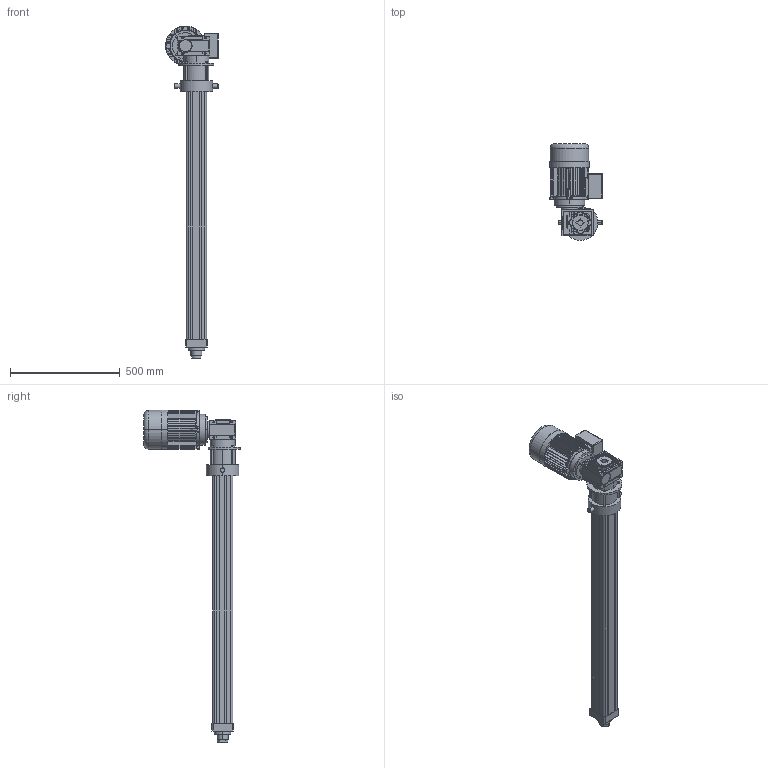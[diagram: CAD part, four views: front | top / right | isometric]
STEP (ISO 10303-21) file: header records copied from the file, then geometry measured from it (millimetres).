
FILE_DESCRIPTION (( 'STEP AP214' ), '1' );
FILE_NAME ('Ass RV80 TR C1000.STEP', '2017-01-03T16:25:20', ( 'Hubert' ), ( '' ), 'SwSTEP 2.0', 'SolidWorks 2014', '' );
FILE_SCHEMA (( 'AUTOMOTIVE_DESIGN' ));
Length unit declared in the file: millimetre
Products named in the file (9): PAAV 80 D; Profilé MRRV80 TR C1000; Tube MR 80 TR C1000; Ass CHM50_FC MOT 90; _AT_90_LB_4_B14__230-400-50_AC.3d1; _CHM_50_FC_2_7,5_80_B14_B3.3d; Vis MRRV80 TR C1000; PAAR RV 80 B160; Ass RV80 TR C1000
Assembly tree (8 placements, depth 3):
  Ass RV80 TR C1000
    PAAR RV 80 B160
    Vis MRRV80 TR C1000
    Ass CHM50_FC MOT 90
      _CHM_50_FC_2_7,5_80_B14_B3.3d
      _AT_90_LB_4_B14__230-400-50_AC.3d1
    Tube MR 80 TR C1000
    Profilé MRRV80 TR C1000
    PAAV 80 D
Bounding box: 240 x 440.03 x 1514 mm (x, y, z)
Volume: 13528814.3 mm3; surface area: 2207595.5 mm2
Topology: 7 solids, 16 shells, 1089 faces, 3181 edges, 2145 vertices
Faces by surface type: plane 467, cylinder 414, cone 159, bspline 47, torus 2
Entity records: 53534 total; most frequent: CARTESIAN_POINT 14461, ORIENTED_EDGE 6286, DIRECTION 5228, EDGE_CURVE 3143, VERTEX_POINT 2145, AXIS2_PLACEMENT_3D 1827, LINE 1574, VECTOR 1574
